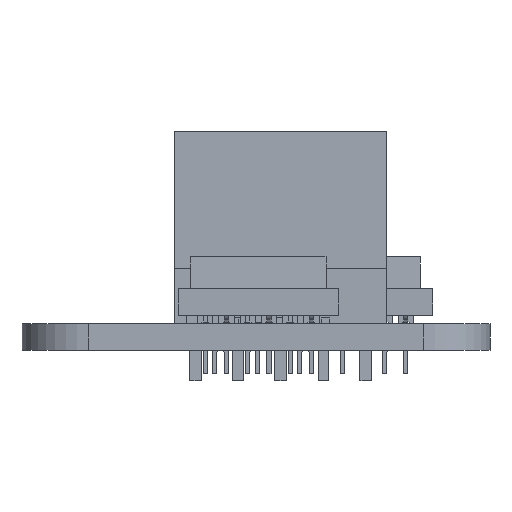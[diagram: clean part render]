
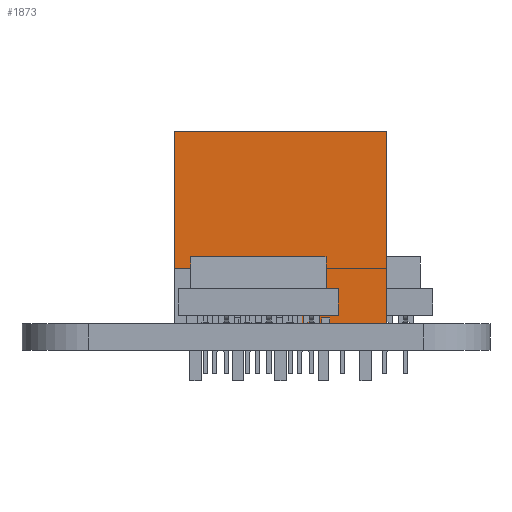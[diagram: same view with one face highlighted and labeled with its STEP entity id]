
A CAD part, left-side view. The second image highlights one B-rep face of the part: STEP entity #1873.
In plain terms, the highlighted planar face has unit normal (-1, 0, 0).
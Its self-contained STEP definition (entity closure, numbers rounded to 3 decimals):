
#1848 = VERTEX_POINT('',#1849);
#1849 = CARTESIAN_POINT('',(-0.5,-6.348,11.5));
#1855 = EDGE_CURVE('',#1856,#1848,#1858,.T.);
#1856 = VERTEX_POINT('',#1857);
#1857 = CARTESIAN_POINT('',(-0.5,-6.348,0.));
#1858 = LINE('',#1859,#1860);
#1859 = CARTESIAN_POINT('',(-0.5,-6.348,0.));
#1860 = VECTOR('',#1861,1.);
#1861 = DIRECTION('',(0.,0.,1.));
#1873 = ADVANCED_FACE('',(#1874),#1899,.T.);
#1874 = FACE_BOUND('',#1875,.T.);
#1875 = EDGE_LOOP('',(#1876,#1877,#1885,#1893));
#1876 = ORIENTED_EDGE('',*,*,#1855,.T.);
#1877 = ORIENTED_EDGE('',*,*,#1878,.T.);
#1878 = EDGE_CURVE('',#1848,#1879,#1881,.T.);
#1879 = VERTEX_POINT('',#1880);
#1880 = CARTESIAN_POINT('',(-0.5,6.348,11.5));
#1881 = LINE('',#1882,#1883);
#1882 = CARTESIAN_POINT('',(-0.5,-6.348,11.5));
#1883 = VECTOR('',#1884,1.);
#1884 = DIRECTION('',(0.,1.,0.));
#1885 = ORIENTED_EDGE('',*,*,#1886,.F.);
#1886 = EDGE_CURVE('',#1887,#1879,#1889,.T.);
#1887 = VERTEX_POINT('',#1888);
#1888 = CARTESIAN_POINT('',(-0.5,6.348,0.));
#1889 = LINE('',#1890,#1891);
#1890 = CARTESIAN_POINT('',(-0.5,6.348,0.));
#1891 = VECTOR('',#1892,1.);
#1892 = DIRECTION('',(0.,0.,1.));
#1893 = ORIENTED_EDGE('',*,*,#1894,.F.);
#1894 = EDGE_CURVE('',#1856,#1887,#1895,.T.);
#1895 = LINE('',#1896,#1897);
#1896 = CARTESIAN_POINT('',(-0.5,-6.348,0.));
#1897 = VECTOR('',#1898,1.);
#1898 = DIRECTION('',(0.,1.,0.));
#1899 = PLANE('',#1900);
#1900 = AXIS2_PLACEMENT_3D('',#1901,#1902,#1903);
#1901 = CARTESIAN_POINT('',(-0.5,-6.348,0.));
#1902 = DIRECTION('',(-1.,0.,0.));
#1903 = DIRECTION('',(0.,1.,0.));
